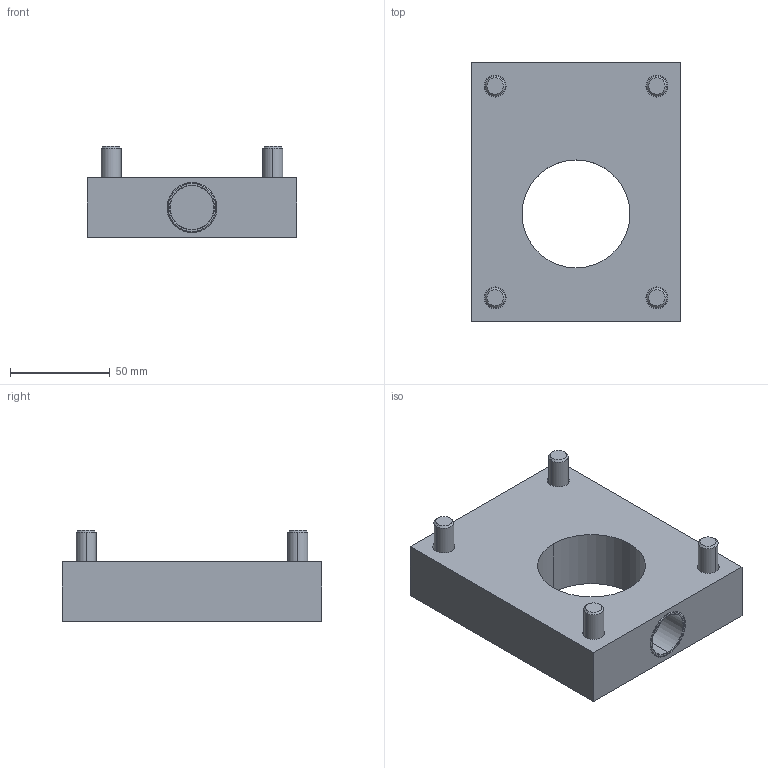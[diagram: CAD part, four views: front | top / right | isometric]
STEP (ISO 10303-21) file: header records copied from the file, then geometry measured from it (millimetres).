
FILE_DESCRIPTION (( 'STEP AP203' ), '1' );
FILE_NAME ('MJ3-KP(B1).STEP', '2024-01-16T09:27:11', ( '' ), ( '' ), 'SwSTEP 2.0', 'SolidWorks 2022', '' );
FILE_SCHEMA (( 'CONFIG_CONTROL_DESIGN' ));
Length unit declared in the file: millimetre
Products named in the file (1): MJ3-KP(B1)
Bounding box: 105 x 130 x 45.6 mm (x, y, z)
Volume: 328787.2 mm3; surface area: 61797.6 mm2
Topology: 7 solids, 7 shells, 146 faces, 342 edges, 216 vertices
Faces by surface type: plane 52, cylinder 46, cone 32, torus 16
Entity records: 4223 total; most frequent: CARTESIAN_POINT 761, DIRECTION 760, ORIENTED_EDGE 668, EDGE_CURVE 334, AXIS2_PLACEMENT_3D 311, VERTEX_POINT 216, EDGE_LOOP 174, CIRCLE 164
